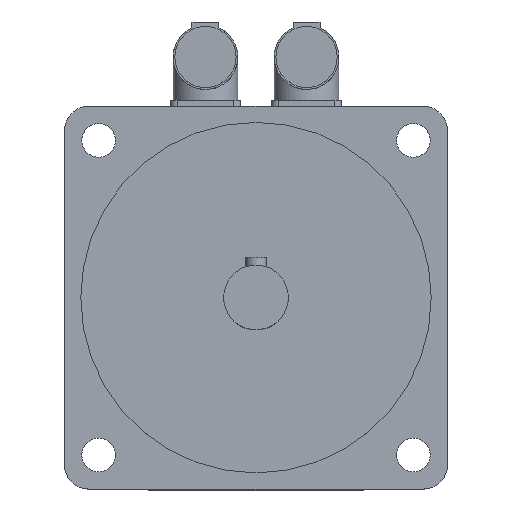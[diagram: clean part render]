
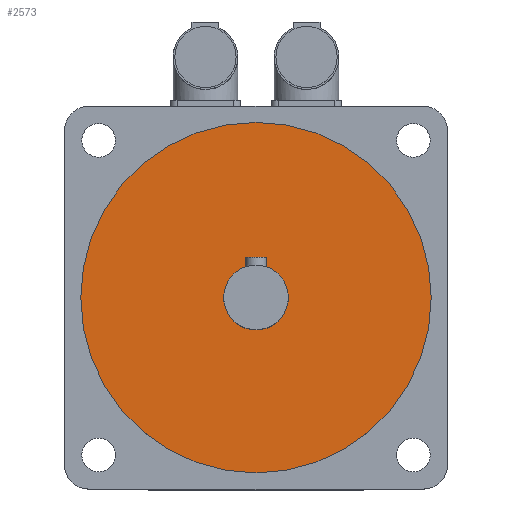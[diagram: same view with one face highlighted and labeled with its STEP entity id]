
A CAD part, top view. The second image highlights one B-rep face of the part: STEP entity #2573.
In plain terms, the highlighted planar face has unit normal (0, 0, 1).
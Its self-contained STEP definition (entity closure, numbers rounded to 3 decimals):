
#40=FACE_BOUND('',#443,.T.);
#68=CIRCLE('',#2730,12.);
#69=CIRCLE('',#2733,65.);
#285=FACE_OUTER_BOUND('',#442,.T.);
#442=EDGE_LOOP('',(#1750));
#443=EDGE_LOOP('',(#1751));
#1090=VERTEX_POINT('',#3908);
#1091=VERTEX_POINT('',#3912);
#1348=EDGE_CURVE('',#1090,#1090,#68,.T.);
#1349=EDGE_CURVE('',#1091,#1091,#69,.T.);
#1750=ORIENTED_EDGE('',*,*,#1349,.T.);
#1751=ORIENTED_EDGE('',*,*,#1348,.T.);
#2497=PLANE('',#2735);
#2573=ADVANCED_FACE('',(#285,#40),#2497,.F.);
#2730=AXIS2_PLACEMENT_3D('',#3909,#3045,#3046);
#2733=AXIS2_PLACEMENT_3D('',#3913,#3051,#3052);
#2735=AXIS2_PLACEMENT_3D('',#3916,#3055,#3056);
#3045=DIRECTION('center_axis',(0.,0.,
-1.));
#3046=DIRECTION('ref_axis',(-1.,0.,0.));
#3051=DIRECTION('center_axis',(0.,0.,
1.));
#3052=DIRECTION('ref_axis',(-1.,0.,0.));
#3055=DIRECTION('center_axis',(0.,0.,
-1.));
#3056=DIRECTION('ref_axis',(-1.,0.,0.));
#3908=CARTESIAN_POINT('',(12.,0.,176.5));
#3909=CARTESIAN_POINT('Origin',(0.,0.,
176.5));
#3912=CARTESIAN_POINT('',(65.,0.,176.5));
#3913=CARTESIAN_POINT('Origin',(0.,0.,
176.5));
#3916=CARTESIAN_POINT('Origin',(0.,0.,
176.5));
